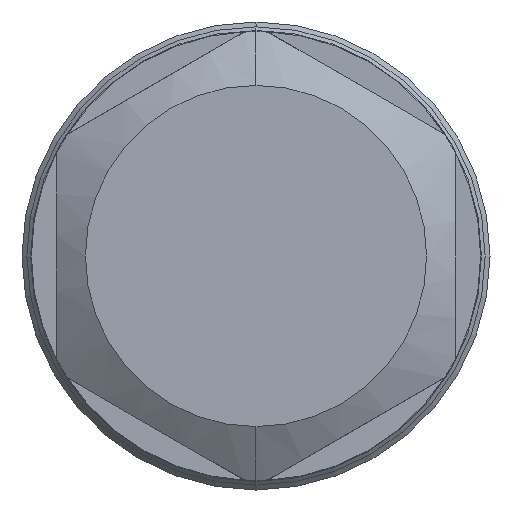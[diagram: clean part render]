
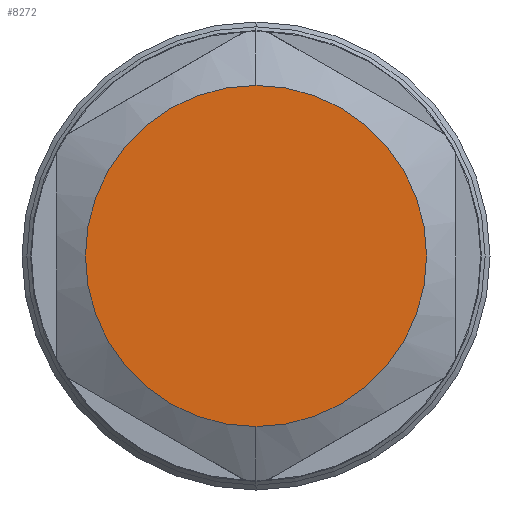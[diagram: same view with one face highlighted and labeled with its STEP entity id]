
A CAD part, left-side view. The second image highlights one B-rep face of the part: STEP entity #8272.
In plain terms, the highlighted planar face has unit normal (-1, 0, 0).
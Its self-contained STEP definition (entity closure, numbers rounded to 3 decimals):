
#655 = AXIS2_PLACEMENT_3D ( 'NONE', #14881, #4581, #4544 ) ;
#775 = VERTEX_POINT ( 'NONE', #13030 ) ;
#1223 = CIRCLE ( 'NONE', #10933, 17.5 ) ;
#2009 = DIRECTION ( 'NONE',  ( -1., 0., 0. ) ) ;
#2203 = DIRECTION ( 'NONE',  ( 0., 0., 1. ) ) ;
#2266 = CARTESIAN_POINT ( 'NONE',  ( 0., 0., 0. ) ) ;
#2694 = PLANE ( 'NONE',  #655 ) ;
#3541 = EDGE_CURVE ( 'NONE', #775, #12992, #12538, .T. ) ;
#3944 = FACE_OUTER_BOUND ( 'NONE', #11584, .T. ) ;
#4447 = ORIENTED_EDGE ( 'NONE', *, *, #5336, .T. ) ;
#4544 = DIRECTION ( 'NONE',  ( 0., 0., -1. ) ) ;
#4581 = DIRECTION ( 'NONE',  ( 1., 0., 0. ) ) ;
#5336 = EDGE_CURVE ( 'NONE', #12992, #775, #1223, .T. ) ;
#6091 = DIRECTION ( 'NONE',  ( 0., 0., 1. ) ) ;
#6111 = DIRECTION ( 'NONE',  ( -1., 0., 0. ) ) ;
#6377 = CARTESIAN_POINT ( 'NONE',  ( 0., 0., 0. ) ) ;
#8272 = ADVANCED_FACE ( 'NONE', ( #3944 ), #2694, .F. ) ;
#10933 = AXIS2_PLACEMENT_3D ( 'NONE', #6377, #6111, #6091 ) ;
#11181 = CARTESIAN_POINT ( 'NONE',  ( 0., 0., 17.5 ) ) ;
#11334 = ORIENTED_EDGE ( 'NONE', *, *, #3541, .T. ) ;
#11584 = EDGE_LOOP ( 'NONE', ( #11334, #4447 ) ) ;
#12538 = CIRCLE ( 'NONE', #13277, 17.5 ) ;
#12992 = VERTEX_POINT ( 'NONE', #11181 ) ;
#13030 = CARTESIAN_POINT ( 'NONE',  ( 0., 0., -17.5 ) ) ;
#13277 = AXIS2_PLACEMENT_3D ( 'NONE', #2266, #2009, #2203 ) ;
#14881 = CARTESIAN_POINT ( 'NONE',  ( 0., 0., 0. ) ) ;
